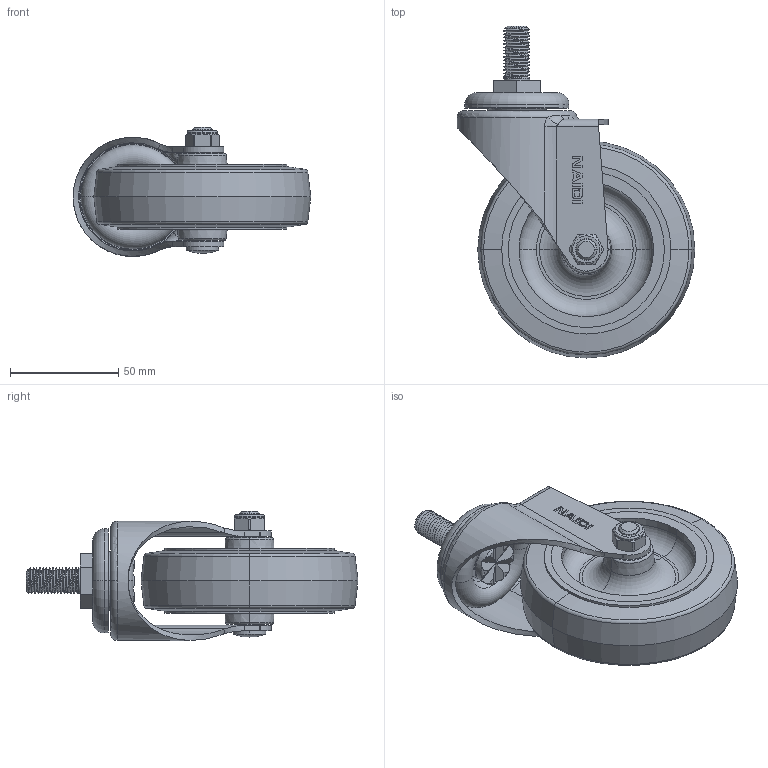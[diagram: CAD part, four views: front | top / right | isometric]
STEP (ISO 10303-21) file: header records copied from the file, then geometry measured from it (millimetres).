
FILE_DESCRIPTION((''),'2;1');
FILE_NAME('C52134_ASM','2024-05-22T',('Lenovo'),(''),'PRO/ENGINEER BY PARAMETRIC TECHNOLOGY CORPORATION, 2010280','PRO/ENGINEER BY PARAMETRIC TECHNOLOGY CORPORATION, 2010280','');
FILE_SCHEMA(('CONFIG_CONTROL_DESIGN'));
Length unit declared in the file: millimetre
Products named in the file (9): 550-23M12X25; 500-36; C5210-211; C5214-311; C524-964; 500-54; 570-33; 570-34; C52134_ASM
Assembly tree (10 placements, depth 2):
  C52134_ASM
    550-23M12X25
    500-36  x2
    C5210-211  x2
    C5214-311
    C524-964
    500-54
    570-33
    570-34
Bounding box: 109.5 x 153 x 59.5 mm (x, y, z)
Volume: 151913.9 mm3; surface area: 90413 mm2
Topology: 10 solids, 11 shells, 379 faces, 882 edges, 545 vertices
Faces by surface type: plane 134, cylinder 120, cone 50, torus 50, bspline 23, sphere 2
Entity records: 15197 total; most frequent: CARTESIAN_POINT 7018, DIRECTION 1663, ORIENTED_EDGE 1652, EDGE_CURVE 826, AXIS2_PLACEMENT_3D 645, VERTEX_POINT 513, EDGE_LOOP 393, VECTOR 373
